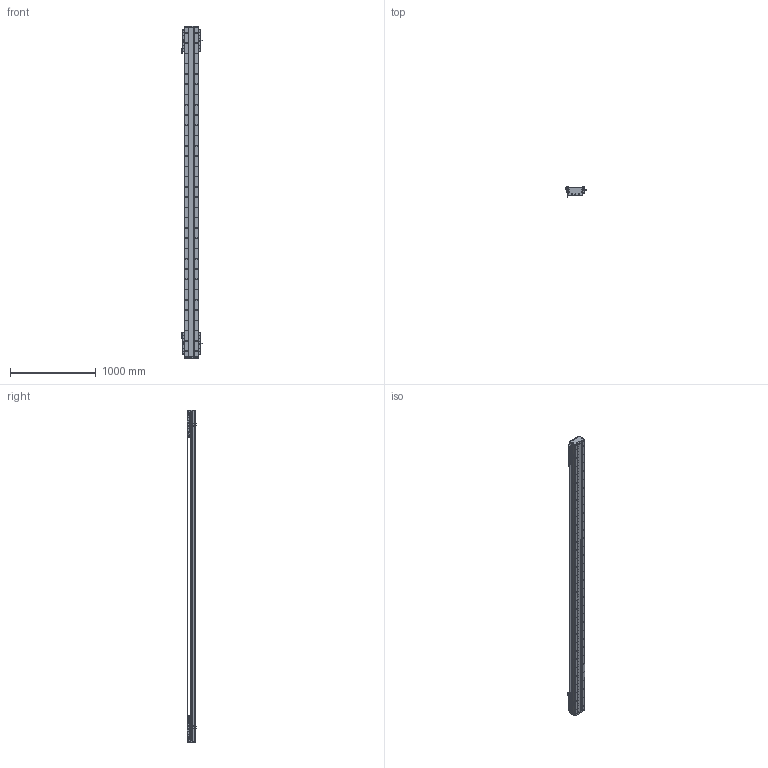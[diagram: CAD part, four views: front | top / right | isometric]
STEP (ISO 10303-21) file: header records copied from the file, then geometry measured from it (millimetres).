
FILE_DESCRIPTION (( 'STEP AP203' ), '1' );
FILE_NAME ('DA-C165-2-C3-T3260-C010-0.2 直线电机.STEP', '2023-06-13T09:09:44', ( '微软用户' ), ( '微软中国' ), 'SwSTEP 2.0', 'SolidWorks 2019', '' );
FILE_SCHEMA (( 'CONFIG_CONTROL_DESIGN' ));
Length unit declared in the file: millimetre
Products named in the file (22): 复件 DA95-HXJ-00 缓冲橡胶^DA-C165-C3-T-C010-0.2-N 直线电机; 珨极趙賑雄怢啣C3-wf; DA-C165-2-C3-T3260-C010-0.2 眻盄萇儂; 复件 66338-1000-006-00 光电感应块^DA-C165-C3-T-C010-0.2-N 直线电机; 复件 CU165钢带组件^DA-C165-C3-T-C010-0.2-N 直线电机; IU-CU165-L 菁釱絳寢; 葩璃 CKM03-W075-C1C2-TP-3.0^DA-C165-C3-T-C010-0.2-N 眻盄萇儂; 复件 六角薄螺母 M3^DA-C165-C3-T-C010-0.2-N 直线电机_GB_FASTENER_NUT_STNAB M3-C; 复件 DA165-GD-DG-H-00 端盖^复件 CU165钢带组件_DA-C165-C3-T-C010-0.2-N 直线电机; 复件 DA165-GDYK-00 钢带压块^复件 CU165钢带组件_DA-C165-C3-T-C010-0.2-N 直线电机; 复件 DA165-GD-1860-002-00 钢带盖板^复件 CU165钢带组件_DA-C165-C3-T-C010-0.2-N 直线电机; 复件 XD-U-02L 磁栅尺^DA-C165-C3-T-C010-0.2-N 直线电机_T; 葩璃 PM-T45^DA-C165-C3-T-C010-0.2-N 眻盄萇儂; 复件 DA165-GYP-00 光电感应片^DA-C165-C3-T-C010-0.2-N 直线电机; 复件 DA126-GYP-ZJ-00 中间光电感应片^DA-C165-C3-T-C010-0.2-N 直线电机; 复件 DKW-HXJ-JY-00 缓冲橡胶^DA-C165-C3-T-C010-0.2-N 直线电机; 复件 DMA-010-0.2 读数头^DA-C165-C3-T-C010-0.2-N 直线电机; 葩璃 CKM01-W075-TRL^DA-C165-C3-T-C010-0.2-N 眻盄萇儂; 葩璃 DA95-GT-T-00^IU-CU165-L 菁釱絳寢_T; 葩璃 PM-Y45^DA-C165-C3-T-C010-0.2-N 眻盄萇儂; 复件 DA165-GDLK-00 钢带拉块^复件 CU165钢带组件_DA-C165-C3-T-C010-0.2-N 直线电机; 复件 CU165 底座^IU-CU165-L 底座导轨_L3840
Assembly tree (45 placements, depth 3):
  DA-C165-2-C3-T3260-C010-0.2 眻盄萇儂
    IU-CU165-L 菁釱絳寢
      复件 CU165 底座^IU-CU165-L 底座导轨_L3840
      葩璃 DA95-GT-T-00^IU-CU165-L 菁釱絳寢_T  x4
    复件 XD-U-02L 磁栅尺^DA-C165-C3-T-C010-0.2-N 直线电机_T
    葩璃 PM-T45^DA-C165-C3-T-C010-0.2-N 眻盄萇儂  x4
    葩璃 CKM01-W075-TRL^DA-C165-C3-T-C010-0.2-N 眻盄萇儂
    复件 CU165钢带组件^DA-C165-C3-T-C010-0.2-N 直线电机
      复件 DA165-GD-DG-H-00 端盖^复件 CU165钢带组件_DA-C165-C3-T-C010-0.2-N 直线电机  x2
      复件 DA165-GDYK-00 钢带压块^复件 CU165钢带组件_DA-C165-C3-T-C010-0.2-N 直线电机  x2
      复件 DA165-GD-1860-002-00 钢带盖板^复件 CU165钢带组件_DA-C165-C3-T-C010-0.2-N 直线电机
      复件 DA165-GDLK-00 钢带拉块^复件 CU165钢带组件_DA-C165-C3-T-C010-0.2-N 直线电机  x2
    复件 DA95-HXJ-00 缓冲橡胶^DA-C165-C3-T-C010-0.2-N 直线电机  x4
    复件 DMA-010-0.2 读数头^DA-C165-C3-T-C010-0.2-N 直线电机  x2
    复件 DA165-GYP-00 光电感应片^DA-C165-C3-T-C010-0.2-N 直线电机  x2
    复件 66338-1000-006-00 光电感应块^DA-C165-C3-T-C010-0.2-N 直线电机
    葩璃 PM-Y45^DA-C165-C3-T-C010-0.2-N 眻盄萇儂
    复件 DA126-GYP-ZJ-00 中间光电感应片^DA-C165-C3-T-C010-0.2-N 直线电机
    葩璃 CKM03-W075-C1C2-TP-3.0^DA-C165-C3-T-C010-0.2-N 眻盄萇儂  x2
    复件 DKW-HXJ-JY-00 缓冲橡胶^DA-C165-C3-T-C010-0.2-N 直线电机  x2
    复件 六角薄螺母 M3^DA-C165-C3-T-C010-0.2-N 直线电机_GB_FASTENER_NUT_STNAB M3-C  x8
    珨极趙賑雄怢啣C3-wf  x2
Bounding box: 247.2 x 111.45 x 3880 mm (x, y, z)
Volume: 23257534.6 mm3; surface area: 6796637.3 mm2
Topology: 121 solids, 221 shells, 7181 faces, 20230 edges, 12704 vertices
Faces by surface type: cylinder 4054, plane 2059, cone 980, torus 80, sphere 8
Entity records: 179506 total; most frequent: CARTESIAN_POINT 50697, ORIENTED_EDGE 27044, DIRECTION 25746, EDGE_CURVE 13522, AXIS2_PLACEMENT_3D 9895, VERTEX_POINT 8858, EDGE_LOOP 6190, LINE 5956
